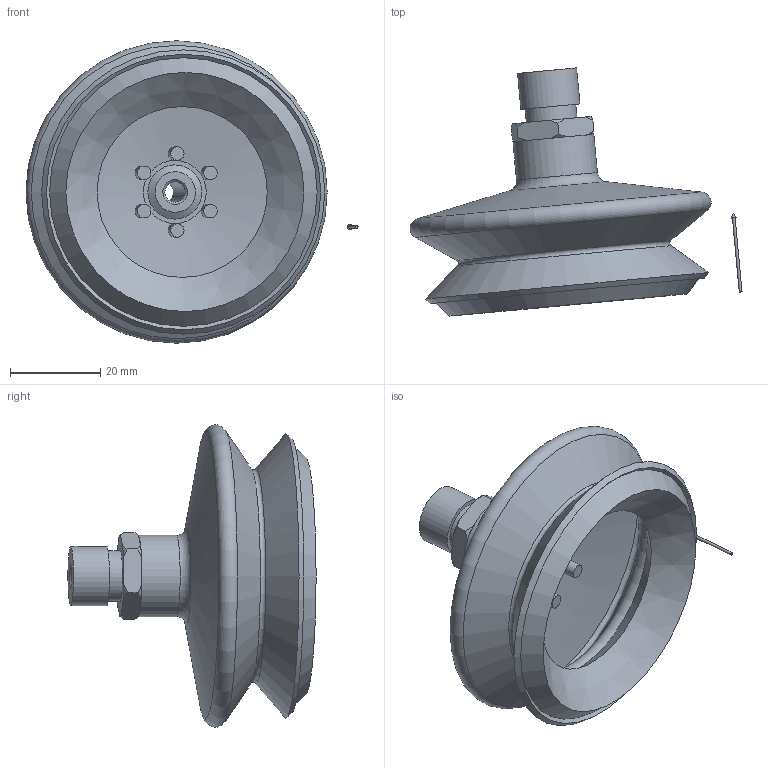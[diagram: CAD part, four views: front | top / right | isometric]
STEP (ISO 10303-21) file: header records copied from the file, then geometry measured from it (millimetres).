
FILE_DESCRIPTION(('STEP AP214'),'1');
FILE_NAME('KIT.08.26.D63.21.stp','2019-04-29T08:15:50',(' '),(' '),'Spatial InterOp 3D',' ',' ');
FILE_SCHEMA(('AUTOMOTIVE_DESIGN { 1 0 10303 214 1 1 1 1 }'));
Length unit declared in the file: millimetre
Products named in the file (6): KIT.08.26.D63.21; CA.08.09.021; CA.08.26.D63.AS; FRECCIA.17.5; 08.26.D63; 08.26.D63.AS
Assembly tree (5 placements, depth 3):
  KIT.08.26.D63.21
    CA.08.09.021
    CA.08.26.D63.AS
      FRECCIA.17.5
      08.26.D63
      08.26.D63.AS
Bounding box: 73.56 x 54.97 x 67 mm (x, y, z)
Volume: 26515.8 mm3; surface area: 23834.5 mm2
Topology: 4 solids, 4 shells, 68 faces, 153 edges, 95 vertices
Faces by surface type: cone 27, plane 22, cylinder 14, torus 5
Full cylindrical faces by diameter (mm): 0.6 x1, 3 x6, 4.5 x1, 8 x1, 8.8 x1, 11.3 x1, 12 x1, 13.157 x1, 18 x1
Entity records: 2719 total; most frequent: CARTESIAN_POINT 740, DIRECTION 286, ORIENTED_EDGE 214, AXIS2_PLACEMENT_3D 134, EDGE_LOOP 110, EDGE_CURVE 107, FACE_OUTER_BOUND 87, VERTEX_POINT 84
